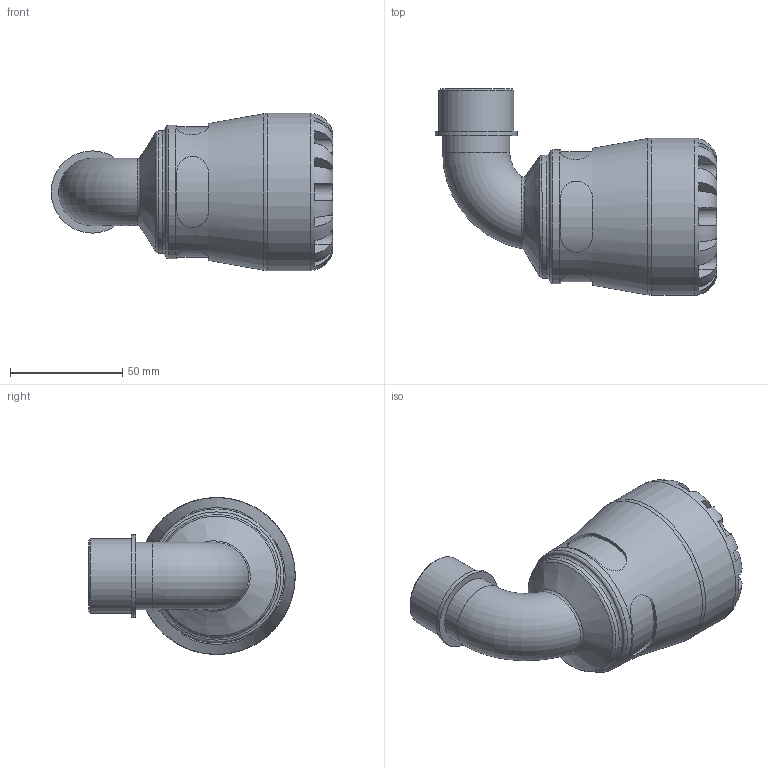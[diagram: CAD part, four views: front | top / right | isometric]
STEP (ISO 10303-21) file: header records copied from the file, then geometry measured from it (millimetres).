
FILE_DESCRIPTION(/* description */ ('PLASSON 90° ELBOW WITH THREADED MALE OFFTAKE 40X1" SERIES 1'),/* implementation_level */ '2;1');
FILE_NAME(/* name */ 'C:\Dropbox\KIMPROJECTS-Inventor\99-16-3568-Processing\S1\27.01.19\1085\108500040010_198500040010.ipt.stp',/* time_stamp */ '2019-01-27T09:13:37+02:00',/* author */ ('KIM'),/* organization */ (''),/* preprocessor_version */ 'ST-DEVELOPER v15.6',/* originating_system */ 'Autodesk Inventor 2015',/* authorisation */ '');
FILE_SCHEMA (('AUTOMOTIVE_DESIGN { 1 0 10303 214 3 1 1 }'));
Length unit declared in the file: millimetre
Products named in the file (1): 108500040010_198500040010
Bounding box: 125.29 x 92 x 70 mm (x, y, z)
Volume: 188613.9 mm3; surface area: 45004.6 mm2
Topology: 1 solids, 1 shells, 110 faces, 269 edges, 167 vertices
Faces by surface type: plane 61, cylinder 37, torus 7, bspline 3, cone 2
Full cylindrical faces by diameter (mm): 23.274 x2, 29.924 x1, 33.249 x1, 36.574 x1, 40 x1, 54.6 x1, 59.5 x1, 70 x1
Entity records: 4321 total; most frequent: CARTESIAN_POINT 1781, ORIENTED_EDGE 488, DIRECTION 487, EDGE_CURVE 244, AXIS2_PLACEMENT_3D 203, VERTEX_POINT 161, EDGE_LOOP 137, STYLED_ITEM 111
